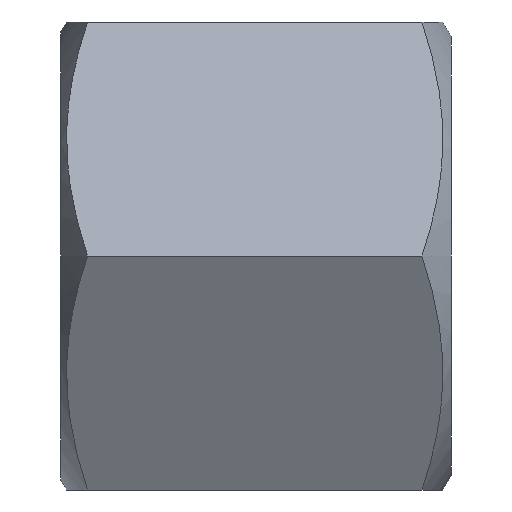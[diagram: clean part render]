
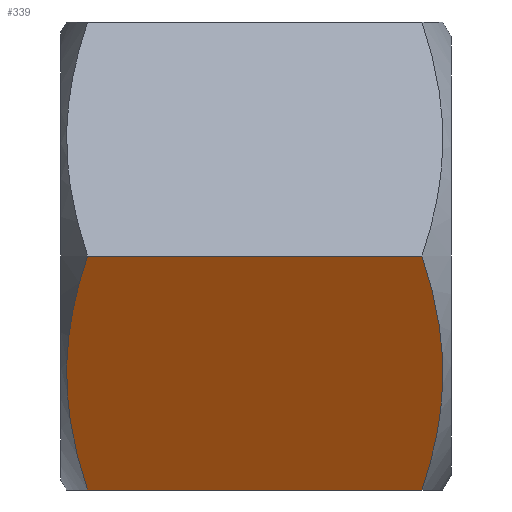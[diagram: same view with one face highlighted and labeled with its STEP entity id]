
A CAD part, front view. The second image highlights one B-rep face of the part: STEP entity #339.
In plain terms, the highlighted planar face has unit normal (0, -0.866, -0.5).
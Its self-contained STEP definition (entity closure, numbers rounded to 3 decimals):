
#134=CARTESIAN_POINT('',(18.513,-13.856,0.));
#135=VERTEX_POINT('',#134);
#145=CARTESIAN_POINT('',(18.513,-6.928,-12.));
#146=VERTEX_POINT('',#145);
#147=CARTESIAN_POINT('',(18.513,-13.856,0.));
#148=CARTESIAN_POINT('',(18.836,-13.297,-0.969));
#149=CARTESIAN_POINT('',(19.106,-12.73,-1.952));
#150=CARTESIAN_POINT('',(19.294,-12.15,-2.955));
#151=CARTESIAN_POINT('',(19.341,-12.005,-3.206));
#152=CARTESIAN_POINT('',(19.383,-11.86,-3.458));
#153=CARTESIAN_POINT('',(19.419,-11.713,-3.712));
#154=CARTESIAN_POINT('',(19.456,-11.567,-3.965));
#155=CARTESIAN_POINT('',(19.486,-11.42,-4.221));
#156=CARTESIAN_POINT('',(19.511,-11.272,-4.476));
#157=CARTESIAN_POINT('',(19.56,-10.978,-4.986));
#158=CARTESIAN_POINT('',(19.586,-10.682,-5.498));
#159=CARTESIAN_POINT('',(19.585,-10.386,-6.01));
#160=CARTESIAN_POINT('',(19.585,-10.091,-6.523));
#161=CARTESIAN_POINT('',(19.559,-9.796,-7.033));
#162=CARTESIAN_POINT('',(19.51,-9.504,-7.538));
#163=CARTESIAN_POINT('',(19.46,-9.212,-8.044));
#164=CARTESIAN_POINT('',(19.387,-8.923,-8.546));
#165=CARTESIAN_POINT('',(19.294,-8.635,-9.044));
#166=CARTESIAN_POINT('',(19.107,-8.059,-10.041));
#167=CARTESIAN_POINT('',(18.838,-7.491,-11.025));
#168=CARTESIAN_POINT('',(18.513,-6.928,-12.));
#169=B_SPLINE_CURVE_WITH_KNOTS('',3,(#147,#148,#149,#150,#151,#152,#153,#154,#155,#156,#157,#158,#159,#160,#161,#162,#163,#164,#165,#166,#167,#168),.UNSPECIFIED.,.F.,.F.,(4,3,3,3,3,3,3,4),(0.034,0.038,0.038,0.039,0.041,0.043,0.045,0.048),.UNSPECIFIED.);
#170=EDGE_CURVE('',#135,#146,#169,.T.);
#293=CARTESIAN_POINT('',(-1.,-10.392,-6.));
#294=DIRECTION('',(0.,-0.866,-0.5));
#295=DIRECTION('',(-0.,0.5,-0.866));
#296=AXIS2_PLACEMENT_3D('',#293,#294,#295);
#297=PLANE('',#296);
#298=CARTESIAN_POINT('',(1.36,-6.928,-12.));
#299=VERTEX_POINT('',#298);
#300=CARTESIAN_POINT('',(1.36,-13.856,0.));
#301=VERTEX_POINT('',#300);
#302=CARTESIAN_POINT('',(1.36,-6.928,-12.));
#303=CARTESIAN_POINT('',(1.034,-7.494,-11.02));
#304=CARTESIAN_POINT('',(0.765,-8.064,-10.033));
#305=CARTESIAN_POINT('',(0.578,-8.639,-9.036));
#306=CARTESIAN_POINT('',(0.392,-9.215,-8.039));
#307=CARTESIAN_POINT('',(0.289,-9.797,-7.032));
#308=CARTESIAN_POINT('',(0.289,-10.386,-6.011));
#309=CARTESIAN_POINT('',(0.288,-10.533,-5.756));
#310=CARTESIAN_POINT('',(0.295,-10.681,-5.5));
#311=CARTESIAN_POINT('',(0.307,-10.828,-5.245));
#312=CARTESIAN_POINT('',(0.319,-10.976,-4.99));
#313=CARTESIAN_POINT('',(0.338,-11.122,-4.735));
#314=CARTESIAN_POINT('',(0.362,-11.269,-4.482));
#315=CARTESIAN_POINT('',(0.411,-11.561,-3.975));
#316=CARTESIAN_POINT('',(0.484,-11.852,-3.472));
#317=CARTESIAN_POINT('',(0.577,-12.141,-2.971));
#318=CARTESIAN_POINT('',(0.764,-12.719,-1.97));
#319=CARTESIAN_POINT('',(1.034,-13.29,-0.981));
#320=CARTESIAN_POINT('',(1.36,-13.856,0.));
#321=B_SPLINE_CURVE_WITH_KNOTS('',3,(#302,#303,#304,#305,#306,#307,#308,#309,#310,#311,#312,#313,#314,#315,#316,#317,#318,#319,#320),.UNSPECIFIED.,.F.,.F.,(4,3,3,3,3,3,4),(0.,0.003,0.007,0.008,0.009,0.01,0.014),.UNSPECIFIED.);
#322=EDGE_CURVE('',#299,#301,#321,.T.);
#323=ORIENTED_EDGE('',*,*,#322,.F.);
#324=CARTESIAN_POINT('',(1.36,-6.928,-12.));
#325=DIRECTION('',(1.,0.,0.));
#326=VECTOR('',#325,17.153);
#327=LINE('',#324,#326);
#328=EDGE_CURVE('',#299,#146,#327,.T.);
#329=ORIENTED_EDGE('',*,*,#328,.T.);
#330=ORIENTED_EDGE('',*,*,#170,.F.);
#331=CARTESIAN_POINT('',(1.36,-13.856,0.));
#332=DIRECTION('',(1.,0.,0.));
#333=VECTOR('',#332,17.153);
#334=LINE('',#331,#333);
#335=EDGE_CURVE('',#301,#135,#334,.T.);
#336=ORIENTED_EDGE('',*,*,#335,.F.);
#337=EDGE_LOOP('',(#323,#329,#330,#336));
#338=FACE_BOUND('',#337,.T.);
#339=ADVANCED_FACE('',(#338),#297,.T.);
